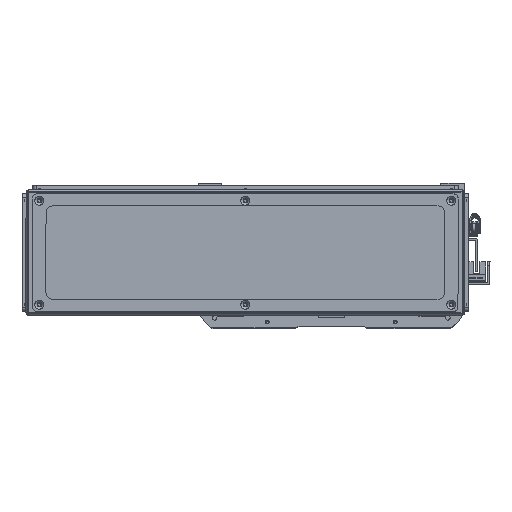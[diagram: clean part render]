
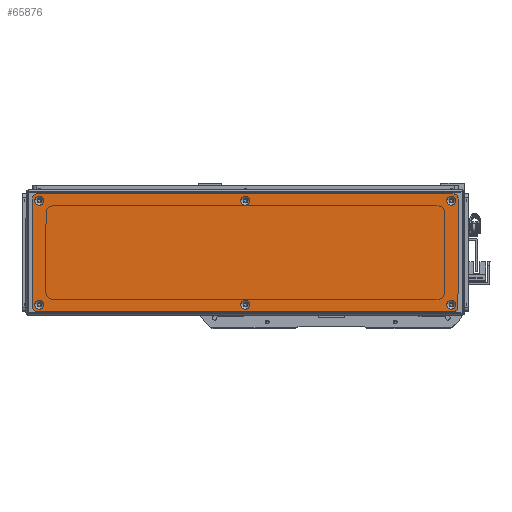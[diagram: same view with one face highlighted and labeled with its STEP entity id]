
A CAD part, front view. The second image highlights one B-rep face of the part: STEP entity #65876.
In plain terms, the highlighted planar face has unit normal (0, -1, 0).
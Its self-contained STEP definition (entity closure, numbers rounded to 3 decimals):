
#2844=FACE_BOUND('',#11357,.T.);
#2845=FACE_BOUND('',#11358,.T.);
#2846=FACE_BOUND('',#11359,.T.);
#2847=FACE_BOUND('',#11360,.T.);
#2848=FACE_BOUND('',#11361,.T.);
#2849=FACE_BOUND('',#11362,.T.);
#4296=CIRCLE('',#71035,3.45);
#4299=CIRCLE('',#71040,3.45);
#4302=CIRCLE('',#71045,3.45);
#4305=CIRCLE('',#71050,3.45);
#4308=CIRCLE('',#71055,3.45);
#4311=CIRCLE('',#71060,3.45);
#4314=CIRCLE('',#71065,3.);
#4316=CIRCLE('',#71068,3.);
#4317=CIRCLE('',#71069,3.);
#4318=CIRCLE('',#71070,3.);
#7575=FACE_OUTER_BOUND('',#11356,.T.);
#11356=EDGE_LOOP('',(#59575,#59576,#59577,#59578,#59579,#59580,#59581,#59582));
#11357=EDGE_LOOP('',(#59583));
#11358=EDGE_LOOP('',(#59584));
#11359=EDGE_LOOP('',(#59585));
#11360=EDGE_LOOP('',(#59586));
#11361=EDGE_LOOP('',(#59587));
#11362=EDGE_LOOP('',(#59588));
#18727=LINE('',#109247,#26143);
#18728=LINE('',#109251,#26144);
#18729=LINE('',#109255,#26145);
#18730=LINE('',#109258,#26146);
#26143=VECTOR('',#87831,10.);
#26144=VECTOR('',#87834,10.);
#26145=VECTOR('',#87837,10.);
#26146=VECTOR('',#87840,10.);
#32323=VERTEX_POINT('',#109177);
#32326=VERTEX_POINT('',#109187);
#32329=VERTEX_POINT('',#109197);
#32332=VERTEX_POINT('',#109207);
#32335=VERTEX_POINT('',#109217);
#32338=VERTEX_POINT('',#109227);
#32341=VERTEX_POINT('',#109237);
#32342=VERTEX_POINT('',#109238);
#32345=VERTEX_POINT('',#109246);
#32346=VERTEX_POINT('',#109248);
#32347=VERTEX_POINT('',#109250);
#32348=VERTEX_POINT('',#109252);
#32349=VERTEX_POINT('',#109254);
#32350=VERTEX_POINT('',#109256);
#41431=EDGE_CURVE('',#32323,#32323,#4296,.T.);
#41436=EDGE_CURVE('',#32326,#32326,#4299,.T.);
#41441=EDGE_CURVE('',#32329,#32329,#4302,.T.);
#41446=EDGE_CURVE('',#32332,#32332,#4305,.T.);
#41451=EDGE_CURVE('',#32335,#32335,#4308,.T.);
#41456=EDGE_CURVE('',#32338,#32338,#4311,.T.);
#41461=EDGE_CURVE('',#32341,#32342,#4314,.T.);
#41465=EDGE_CURVE('',#32341,#32345,#18727,.T.);
#41466=EDGE_CURVE('',#32346,#32345,#4316,.T.);
#41467=EDGE_CURVE('',#32346,#32347,#18728,.T.);
#41468=EDGE_CURVE('',#32348,#32347,#4317,.T.);
#41469=EDGE_CURVE('',#32348,#32349,#18729,.T.);
#41470=EDGE_CURVE('',#32350,#32349,#4318,.T.);
#41471=EDGE_CURVE('',#32350,#32342,#18730,.T.);
#59575=ORIENTED_EDGE('',*,*,#41461,.F.);
#59576=ORIENTED_EDGE('',*,*,#41465,.T.);
#59577=ORIENTED_EDGE('',*,*,#41466,.F.);
#59578=ORIENTED_EDGE('',*,*,#41467,.T.);
#59579=ORIENTED_EDGE('',*,*,#41468,.F.);
#59580=ORIENTED_EDGE('',*,*,#41469,.T.);
#59581=ORIENTED_EDGE('',*,*,#41470,.F.);
#59582=ORIENTED_EDGE('',*,*,#41471,.T.);
#59583=ORIENTED_EDGE('',*,*,#41431,.T.);
#59584=ORIENTED_EDGE('',*,*,#41436,.T.);
#59585=ORIENTED_EDGE('',*,*,#41441,.T.);
#59586=ORIENTED_EDGE('',*,*,#41446,.T.);
#59587=ORIENTED_EDGE('',*,*,#41451,.T.);
#59588=ORIENTED_EDGE('',*,*,#41456,.T.);
#62632=PLANE('',#71067);
#65876=ADVANCED_FACE('',(#7575,#2844,#2845,#2846,#2847,#2848,#2849),#62632,
 .T.);
#71035=AXIS2_PLACEMENT_3D('',#109178,#87751,#87752);
#71040=AXIS2_PLACEMENT_3D('',#109188,#87763,#87764);
#71045=AXIS2_PLACEMENT_3D('',#109198,#87775,#87776);
#71050=AXIS2_PLACEMENT_3D('',#109208,#87787,#87788);
#71055=AXIS2_PLACEMENT_3D('',#109218,#87799,#87800);
#71060=AXIS2_PLACEMENT_3D('',#109228,#87811,#87812);
#71065=AXIS2_PLACEMENT_3D('',#109239,#87823,#87824);
#71067=AXIS2_PLACEMENT_3D('',#109245,#87829,#87830);
#71068=AXIS2_PLACEMENT_3D('',#109249,#87832,#87833);
#71069=AXIS2_PLACEMENT_3D('',#109253,#87835,#87836);
#71070=AXIS2_PLACEMENT_3D('',#109257,#87838,#87839);
#87751=DIRECTION('center_axis',(0.,1.,0.));
#87752=DIRECTION('ref_axis',(1.,0.,0.));
#87763=DIRECTION('center_axis',(0.,1.,0.));
#87764=DIRECTION('ref_axis',(1.,0.,0.));
#87775=DIRECTION('center_axis',(0.,1.,0.));
#87776=DIRECTION('ref_axis',(1.,0.,0.));
#87787=DIRECTION('center_axis',(0.,1.,0.));
#87788=DIRECTION('ref_axis',(1.,0.,0.));
#87799=DIRECTION('center_axis',(0.,1.,0.));
#87800=DIRECTION('ref_axis',(1.,0.,0.));
#87811=DIRECTION('center_axis',(0.,1.,0.));
#87812=DIRECTION('ref_axis',(1.,0.,0.));
#87823=DIRECTION('center_axis',(0.,1.,0.));
#87824=DIRECTION('ref_axis',(-0.707,0.,0.707));
#87829=DIRECTION('center_axis',(0.,-1.,0.));
#87830=DIRECTION('ref_axis',(0.,0.,-1.));
#87831=DIRECTION('',(0.,0.,-1.));
#87832=DIRECTION('center_axis',(0.,1.,0.));
#87833=DIRECTION('ref_axis',(-0.707,0.,-0.707));
#87834=DIRECTION('',(1.,0.,0.));
#87835=DIRECTION('center_axis',(0.,1.,0.));
#87836=DIRECTION('ref_axis',(0.707,0.,-0.707));
#87837=DIRECTION('',(0.,0.,1.));
#87838=DIRECTION('center_axis',(0.,1.,0.));
#87839=DIRECTION('ref_axis',(0.707,0.,0.707));
#87840=DIRECTION('',(-1.,0.,0.));
#109177=CARTESIAN_POINT('',(151.05,-1.5,39.));
#109178=CARTESIAN_POINT('Origin',(154.5,-1.5,39.));
#109187=CARTESIAN_POINT('',(-3.45,-1.5,39.));
#109188=CARTESIAN_POINT('Origin',(0.,-1.5,39.));
#109197=CARTESIAN_POINT('',(-157.95,-1.5,39.));
#109198=CARTESIAN_POINT('Origin',(-154.5,-1.5,39.));
#109207=CARTESIAN_POINT('',(-157.95,-1.5,-39.));
#109208=CARTESIAN_POINT('Origin',(-154.5,-1.5,-39.));
#109217=CARTESIAN_POINT('',(-3.45,-1.5,-39.));
#109218=CARTESIAN_POINT('Origin',(0.,-1.5,-39.));
#109227=CARTESIAN_POINT('',(151.05,-1.5,-39.));
#109228=CARTESIAN_POINT('Origin',(154.5,-1.5,-39.));
#109237=CARTESIAN_POINT('',(-159.5,-1.5,41.));
#109238=CARTESIAN_POINT('',(-156.5,-1.5,44.));
#109239=CARTESIAN_POINT('Origin',(-156.5,-1.5,41.));
#109245=CARTESIAN_POINT('Origin',(0.,-1.5,0.));
#109246=CARTESIAN_POINT('',(-159.5,-1.5,-41.));
#109247=CARTESIAN_POINT('',(-159.5,-1.5,44.));
#109248=CARTESIAN_POINT('',(-156.5,-1.5,-44.));
#109249=CARTESIAN_POINT('Origin',(-156.5,-1.5,-41.));
#109250=CARTESIAN_POINT('',(156.5,-1.5,-44.));
#109251=CARTESIAN_POINT('',(-159.5,-1.5,-44.));
#109252=CARTESIAN_POINT('',(159.5,-1.5,-41.));
#109253=CARTESIAN_POINT('Origin',(156.5,-1.5,-41.));
#109254=CARTESIAN_POINT('',(159.5,-1.5,41.));
#109255=CARTESIAN_POINT('',(159.5,-1.5,-44.));
#109256=CARTESIAN_POINT('',(156.5,-1.5,44.));
#109257=CARTESIAN_POINT('Origin',(156.5,-1.5,41.));
#109258=CARTESIAN_POINT('',(159.5,-1.5,44.));
